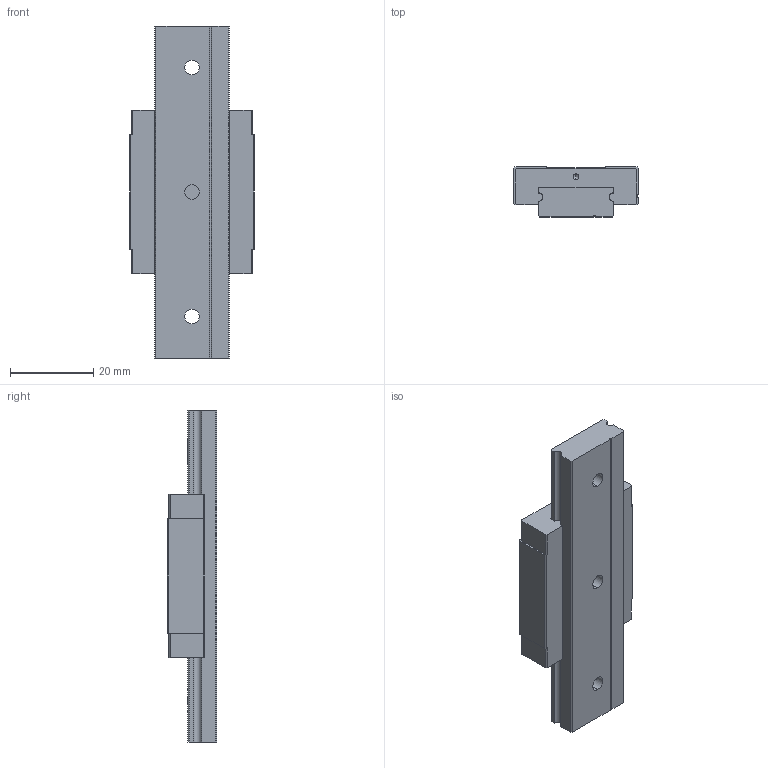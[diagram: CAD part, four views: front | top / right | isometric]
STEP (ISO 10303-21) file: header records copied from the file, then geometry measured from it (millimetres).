
FILE_DESCRIPTION (( 'STEP AP214' ), '1' );
FILE_NAME ('2.1057 Lineaarikelkka MGW9CE.STEP', '2025-09-19T06:55:20', ( '' ), ( '' ), 'SwSTEP 2.0', 'SolidWorks 2025', '' );
FILE_SCHEMA (( 'AUTOMOTIVE_DESIGN' ));
Length unit declared in the file: millimetre
Products named in the file (1): 2.1057 Lineaarikelkka MGW9CE
Bounding box: 30 x 12 x 80 mm (x, y, z)
Volume: 16946.5 mm3; surface area: 8646.1 mm2
Topology: 2 solids, 2 shells, 98 faces, 263 edges, 166 vertices
Faces by surface type: plane 53, cylinder 33, cone 12
Entity records: 4093 total; most frequent: DIRECTION 517, CARTESIAN_POINT 516, ORIENTED_EDGE 502, EDGE_CURVE 251, LINE 183, VECTOR 183, AXIS2_PLACEMENT_3D 167, VERTEX_POINT 166
